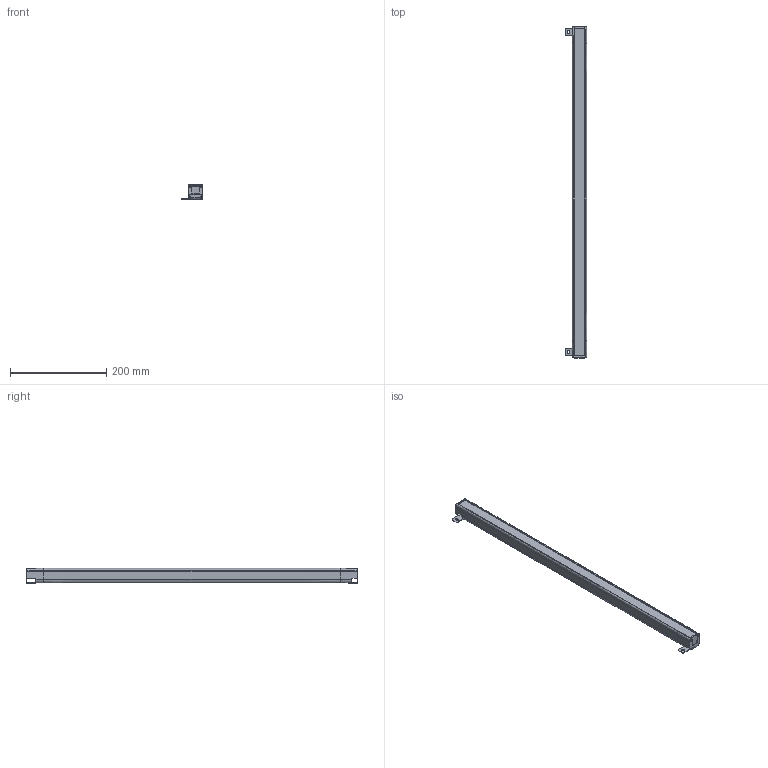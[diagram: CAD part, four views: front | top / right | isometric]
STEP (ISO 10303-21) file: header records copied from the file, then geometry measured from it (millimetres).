
FILE_DESCRIPTION(/* description */ (''),/* implementation_level */ '2;1');
FILE_NAME(/* name */ '3420（30X30）.stp',/* time_stamp */ '2019-02-25T17:26:36+08:00',/* author */ (''),/* organization */ (''),/* preprocessor_version */ 'ST-DEVELOPER v16',/* originating_system */ 'SIEMENS PLM Software NX 10.0',/* authorisation */ '');
FILE_SCHEMA (('AP203_CONFIGURATION_CONTROLLED_3D_DESIGN_OF_MECHANICAL_PARTS_AND_ASSEMBLIES_MIM_LF { 1 0 10303 403 2 1 2}'));
Length unit declared in the file: millimetre
Products named in the file (1): Admi16E0AF18h5vg
Bounding box: 44.89 x 688.4 x 31.39 mm (x, y, z)
Volume: 212865.9 mm3; surface area: 227968 mm2
Topology: 6 solids, 6 shells, 441 faces, 1311 edges, 871 vertices
Faces by surface type: plane 256, cylinder 132, cone 32, bspline 14, extrusion 7
Full cylindrical faces by diameter (mm): 1.5 x2, 3.2 x8, 3.5 x8
Entity records: 15674 total; most frequent: CARTESIAN_POINT 3867, ORIENTED_EDGE 2528, DIRECTION 2314, EDGE_CURVE 1264, VECTOR 856, VERTEX_POINT 855, LINE 849, AXIS2_PLACEMENT_3D 729
